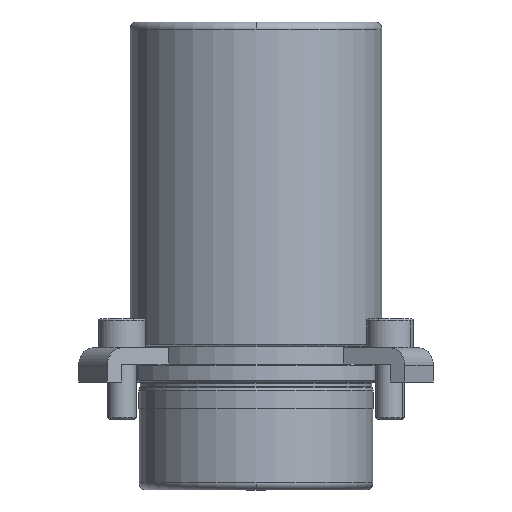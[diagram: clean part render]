
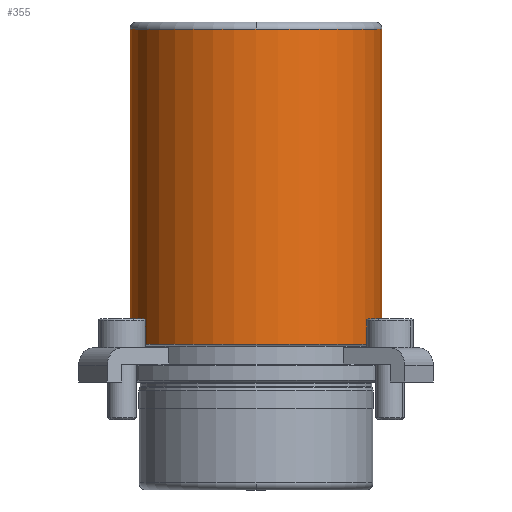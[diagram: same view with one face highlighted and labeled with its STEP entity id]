
A CAD part, front view. The second image highlights one B-rep face of the part: STEP entity #355.
In plain terms, the highlighted cylindrical face has radius 35 mm (diameter 70 mm), a partial arc.
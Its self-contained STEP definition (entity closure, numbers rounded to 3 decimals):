
#269=CARTESIAN_POINT('',(0.0,-35.,98.));
#270=VERTEX_POINT('',#269);
#296=CARTESIAN_POINT('',(-35.0,0.,98.));
#297=VERTEX_POINT('',#296);
#305=CARTESIAN_POINT('',(0.0,0.,98.));
#306=DIRECTION('',(0.0,0.0,1.0));
#307=DIRECTION('',(1.0,0.0,0.0));
#308=AXIS2_PLACEMENT_3D('',#305,#306,#307);
#309=CIRCLE('',#308,35.0);
#310=EDGE_CURVE('',#297,#270,#309,.T.);
#315=CARTESIAN_POINT('',(0.0,0.,54.25));
#316=DIRECTION('',(0.0,0.,1.0));
#317=DIRECTION('',(1.0,0.0,0.0));
#318=AXIS2_PLACEMENT_3D('',#315,#316,#317);
#319=CYLINDRICAL_SURFACE('',#318,35.0);
#320=CARTESIAN_POINT('',(35.0,0.,98.));
#321=VERTEX_POINT('',#320);
#322=CARTESIAN_POINT('',(35.0,0.,10.5));
#323=VERTEX_POINT('',#322);
#324=CARTESIAN_POINT('',(35.0,0.,98.));
#325=DIRECTION('',(0.0,0.0,-1.0));
#326=VECTOR('',#325,87.5);
#327=LINE('',#324,#326);
#328=EDGE_CURVE('',#321,#323,#327,.T.);
#329=ORIENTED_EDGE('',*,*,#328,.F.);
#330=CARTESIAN_POINT('',(0.0,0.,98.));
#331=DIRECTION('',(0.0,0.0,1.0));
#332=DIRECTION('',(1.0,0.0,0.0));
#333=AXIS2_PLACEMENT_3D('',#330,#331,#332);
#334=CIRCLE('',#333,35.0);
#335=EDGE_CURVE('',#270,#321,#334,.T.);
#336=ORIENTED_EDGE('',*,*,#335,.F.);
#337=ORIENTED_EDGE('',*,*,#310,.F.);
#338=CARTESIAN_POINT('',(-35.0,0.,10.5));
#339=VERTEX_POINT('',#338);
#340=CARTESIAN_POINT('',(-35.0,0.,98.));
#341=DIRECTION('',(0.0,0.0,-1.0));
#342=VECTOR('',#341,87.5);
#343=LINE('',#340,#342);
#344=EDGE_CURVE('',#297,#339,#343,.T.);
#345=ORIENTED_EDGE('',*,*,#344,.T.);
#346=CARTESIAN_POINT('',(0.0,0.,10.5));
#347=DIRECTION('',(0.0,0.0,1.0));
#348=DIRECTION('',(1.0,0.0,0.0));
#349=AXIS2_PLACEMENT_3D('',#346,#347,#348);
#350=CIRCLE('',#349,35.0);
#351=EDGE_CURVE('',#339,#323,#350,.T.);
#352=ORIENTED_EDGE('',*,*,#351,.T.);
#353=EDGE_LOOP('',(#329,#336,#337,#345,#352));
#354=FACE_OUTER_BOUND('',#353,.T.);
#355=ADVANCED_FACE('',(#354),#319,.T.);
